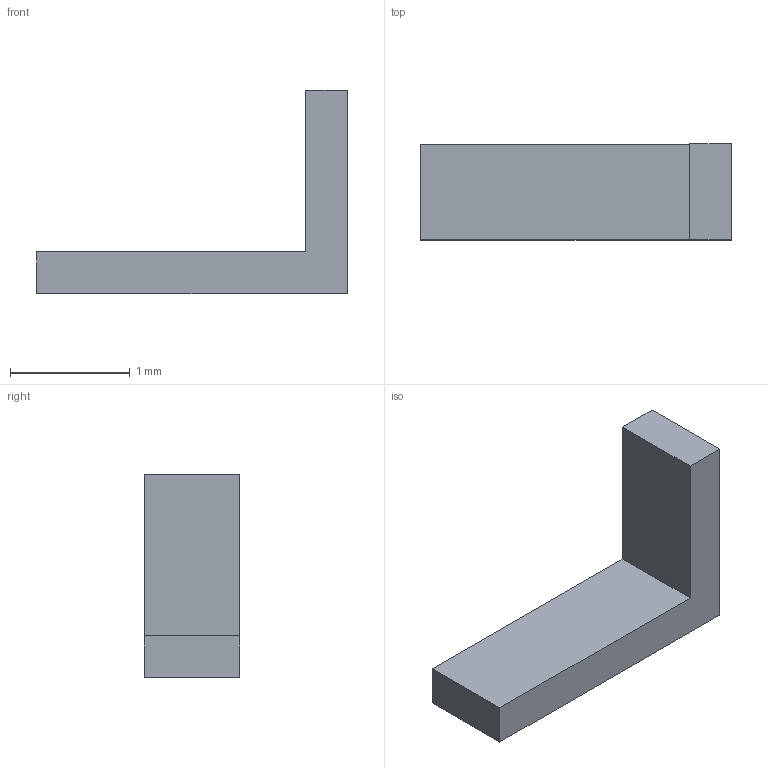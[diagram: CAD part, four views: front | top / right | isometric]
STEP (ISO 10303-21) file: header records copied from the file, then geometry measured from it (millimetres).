
FILE_DESCRIPTION(/* description */ ('STEP AP242 Edition 2','CAx-IF Rec.Pracs.---Representation and Presentation of Product Manufacturing Information (PMI)---4.0---2014-10-13','CAx-IF Rec.Pracs.---3D Tessellated Geometry---0.4---2014-09-14','2;1','CAx-IF Rec.Pracs.---User Defined Attributes---1.5---2016-08-15'),/* implementation_level */ '2;1');
FILE_NAME(/* name */ 'v2_assembly - 1473790000--3DModel-STEP-764301 (6)',/* time_stamp */ '2026-05-19T16:26:03Z',/* author */ (''),/* organization */ (''),/* preprocessor_version */ 'ST-DEVELOPER v20',/* originating_system */ 'ONSHAPE BY PTC INC, 1.215',/* authorisation */ ' ');
FILE_SCHEMA (('AP242_MANAGED_MODEL_BASED_3D_ENGINEERING_MIM_LF { 1 0 10303 442 3 1 4 }'));
Length unit declared in the file: metre
Products named in the file (1): 1473790000--3DModel-STEP-764301
Bounding box: 2.6 x 0.8 x 1.7 mm (x, y, z)
Volume: 1.1 mm3; surface area: 9.6 mm2
Topology: 1 solids, 1 shells, 8 faces, 18 edges, 12 vertices
Faces by surface type: plane 8
Entity records: 244 total; most frequent: CARTESIAN_POINT 39, ORIENTED_EDGE 36, DIRECTION 36, EDGE_CURVE 18, LINE 18, VECTOR 18, VERTEX_POINT 12, AXIS2_PLACEMENT_3D 9
